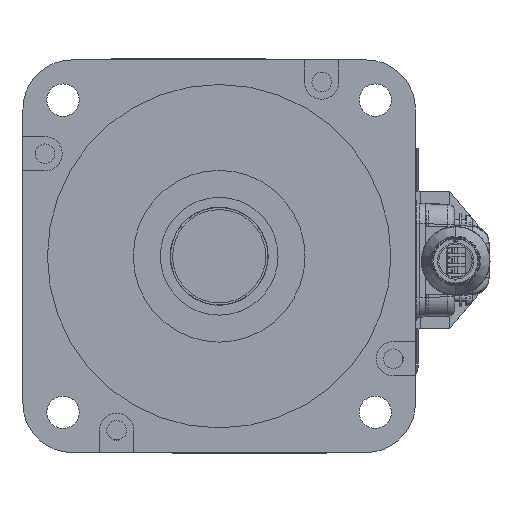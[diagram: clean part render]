
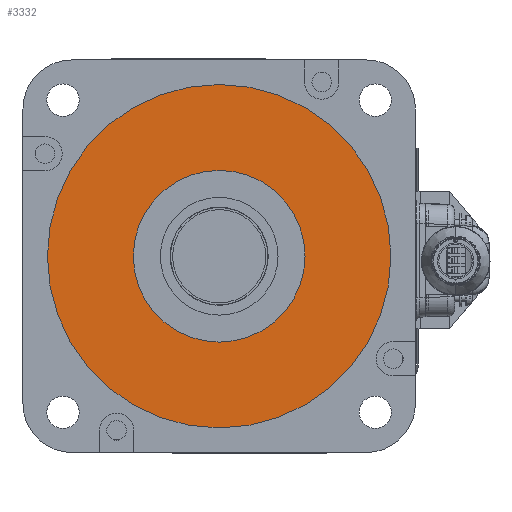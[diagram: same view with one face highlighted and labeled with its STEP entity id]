
A CAD part, front view. The second image highlights one B-rep face of the part: STEP entity #3332.
In plain terms, the highlighted planar face has unit normal (0, -1, 0) as drawn and (0, 1, 0) by its records, which use the part's own axes.
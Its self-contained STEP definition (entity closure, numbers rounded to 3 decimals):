
#2067=CARTESIAN_POINT('',(0.,16.5,0.));
#2068=DIRECTION('',(0.,-1.,0.));
#2069=DIRECTION('',(1.,0.,0.));
#2070=AXIS2_PLACEMENT_3D('',#2067,#2068,#2069);
#2072=CARTESIAN_POINT('',(0.,16.5,0.));
#2073=DIRECTION('',(0.,-1.,0.));
#2074=DIRECTION('',(-1.,0.,0.));
#2075=AXIS2_PLACEMENT_3D('',#2072,#2073,#2074);
#2077=CARTESIAN_POINT('',(0.,16.5,0.));
#2078=DIRECTION('',(0.,1.,0.));
#2079=DIRECTION('',(1.,0.,0.));
#2080=AXIS2_PLACEMENT_3D('',#2077,#2078,#2079);
#2082=CARTESIAN_POINT('',(0.,16.5,0.));
#2083=DIRECTION('',(0.,1.,0.));
#2084=DIRECTION('',(-1.,0.,0.));
#2085=AXIS2_PLACEMENT_3D('',#2082,#2083,#2084);
#2399=CARTESIAN_POINT('',(35.,16.5,0.));
#2400=CARTESIAN_POINT('',(-35.,16.5,0.));
#2401=VERTEX_POINT('',#2399);
#2402=VERTEX_POINT('',#2400);
#2403=CARTESIAN_POINT('',(17.5,16.5,0.));
#2404=CARTESIAN_POINT('',(-17.5,16.5,0.));
#2405=VERTEX_POINT('',#2403);
#2406=VERTEX_POINT('',#2404);
#3316=CARTESIAN_POINT('',(0.,16.5,0.));
#3317=DIRECTION('',(0.,1.,0.));
#3318=DIRECTION('',(1.,0.,0.));
#3319=AXIS2_PLACEMENT_3D('',#3316,#3317,#3318);
#3320=PLANE('',#3319);
#3321=ORIENTED_EDGE('',*,*,#3306,.T.);
#3323=ORIENTED_EDGE('',*,*,#3322,.T.);
#3324=EDGE_LOOP('',(#3321,#3323));
#3325=FACE_OUTER_BOUND('',#3324,.F.);
#3327=ORIENTED_EDGE('',*,*,#3326,.T.);
#3329=ORIENTED_EDGE('',*,*,#3328,.T.);
#3330=EDGE_LOOP('',(#3327,#3329));
#3331=FACE_BOUND('',#3330,.F.);
#2071=CIRCLE('',#2070,35.);
#2076=CIRCLE('',#2075,35.);
#2081=CIRCLE('',#2080,17.5);
#2086=CIRCLE('',#2085,17.5);
#3306=EDGE_CURVE('',#2401,#2402,#2071,.T.);
#3322=EDGE_CURVE('',#2402,#2401,#2076,.T.);
#3326=EDGE_CURVE('',#2405,#2406,#2081,.T.);
#3328=EDGE_CURVE('',#2406,#2405,#2086,.T.);
#3332=ADVANCED_FACE('',(#3325,#3331),#3320,.T.);
